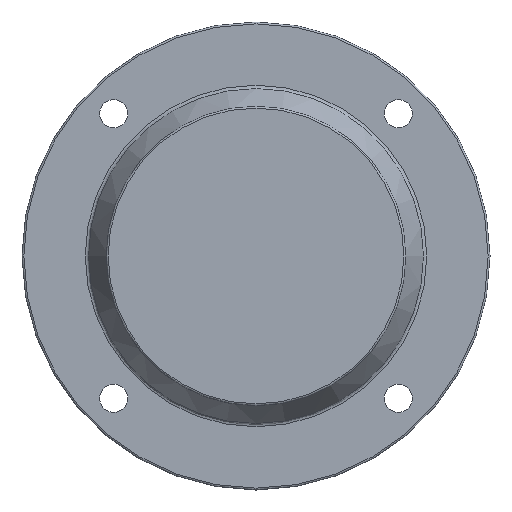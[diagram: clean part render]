
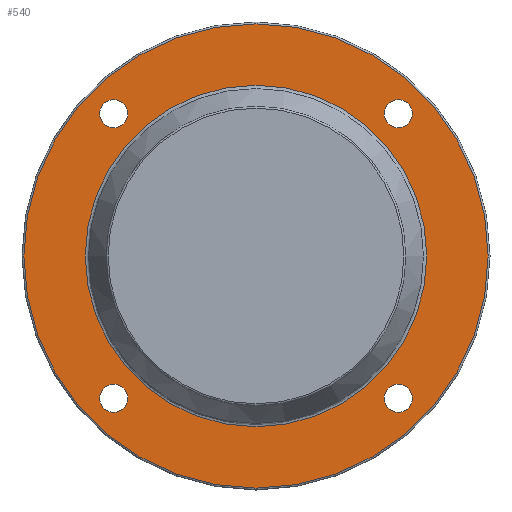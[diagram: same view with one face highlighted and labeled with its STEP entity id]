
A CAD part, left-side view. The second image highlights one B-rep face of the part: STEP entity #540.
In plain terms, the highlighted planar face has unit normal (-1, 0, 0).
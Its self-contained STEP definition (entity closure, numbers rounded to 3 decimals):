
#254=CARTESIAN_POINT('',(78.5,83.514,-76.014));
#255=VERTEX_POINT('',#254);
#256=CARTESIAN_POINT('',(78.5,76.014,-76.014));
#257=DIRECTION('',(1.0,0.0,0.0));
#258=DIRECTION('',(0.0,1.0,0.0));
#259=AXIS2_PLACEMENT_3D('',#256,#257,#258);
#260=CIRCLE('',#259,7.5);
#261=EDGE_CURVE('',#255,#255,#260,.T.);
#303=CARTESIAN_POINT('',(78.5,-68.514,-76.014));
#304=VERTEX_POINT('',#303);
#305=CARTESIAN_POINT('',(78.5,-76.014,-76.014));
#306=DIRECTION('',(1.0,0.0,0.0));
#307=DIRECTION('',(0.0,1.0,0.0));
#308=AXIS2_PLACEMENT_3D('',#305,#306,#307);
#309=CIRCLE('',#308,7.5);
#310=EDGE_CURVE('',#304,#304,#309,.T.);
#352=CARTESIAN_POINT('',(78.5,-68.514,76.014));
#353=VERTEX_POINT('',#352);
#354=CARTESIAN_POINT('',(78.5,-76.014,76.014));
#355=DIRECTION('',(1.0,0.0,0.0));
#356=DIRECTION('',(0.0,1.0,0.0));
#357=AXIS2_PLACEMENT_3D('',#354,#355,#356);
#358=CIRCLE('',#357,7.5);
#359=EDGE_CURVE('',#353,#353,#358,.T.);
#401=CARTESIAN_POINT('',(78.5,83.514,76.014));
#402=VERTEX_POINT('',#401);
#403=CARTESIAN_POINT('',(78.5,76.014,76.014));
#404=DIRECTION('',(1.0,0.0,0.0));
#405=DIRECTION('',(0.0,1.0,0.0));
#406=AXIS2_PLACEMENT_3D('',#403,#404,#405);
#407=CIRCLE('',#406,7.5);
#408=EDGE_CURVE('',#402,#402,#407,.T.);
#477=CARTESIAN_POINT('',(78.5,91.207,0.));
#478=VERTEX_POINT('',#477);
#479=CARTESIAN_POINT('',(78.5,0.0,0.0));
#480=DIRECTION('',(-1.0,0.0,0.0));
#481=DIRECTION('',(0.0,-1.0,0.0));
#482=AXIS2_PLACEMENT_3D('',#479,#480,#481);
#483=CIRCLE('',#482,91.207);
#484=EDGE_CURVE('',#478,#478,#483,.T.);
#509=CARTESIAN_POINT('',(78.5,107.5,0.));
#510=DIRECTION('',(-1.0,0.0,0.0));
#511=DIRECTION('',(0.0,0.0,1.0));
#512=AXIS2_PLACEMENT_3D('',#509,#510,#511);
#513=PLANE('',#512);
#514=CARTESIAN_POINT('',(78.5,124.0,0.0));
#515=VERTEX_POINT('',#514);
#516=CARTESIAN_POINT('',(78.5,0.0,0.0));
#517=DIRECTION('',(1.0,0.0,0.0));
#518=DIRECTION('',(0.0,-1.0,0.0));
#519=AXIS2_PLACEMENT_3D('',#516,#517,#518);
#520=CIRCLE('',#519,124.0);
#521=EDGE_CURVE('',#515,#515,#520,.T.);
#522=ORIENTED_EDGE('',*,*,#521,.F.);
#523=EDGE_LOOP('',(#522));
#524=FACE_OUTER_BOUND('',#523,.T.);
#525=ORIENTED_EDGE('',*,*,#261,.T.);
#526=EDGE_LOOP('',(#525));
#527=FACE_BOUND('',#526,.T.);
#528=ORIENTED_EDGE('',*,*,#310,.T.);
#529=EDGE_LOOP('',(#528));
#530=FACE_BOUND('',#529,.T.);
#531=ORIENTED_EDGE('',*,*,#359,.T.);
#532=EDGE_LOOP('',(#531));
#533=FACE_BOUND('',#532,.T.);
#534=ORIENTED_EDGE('',*,*,#408,.T.);
#535=EDGE_LOOP('',(#534));
#536=FACE_BOUND('',#535,.T.);
#537=ORIENTED_EDGE('',*,*,#484,.F.);
#538=EDGE_LOOP('',(#537));
#539=FACE_BOUND('',#538,.T.);
#540=ADVANCED_FACE('',(#524,#527,#530,#533,#536,#539),#513,.T.);
